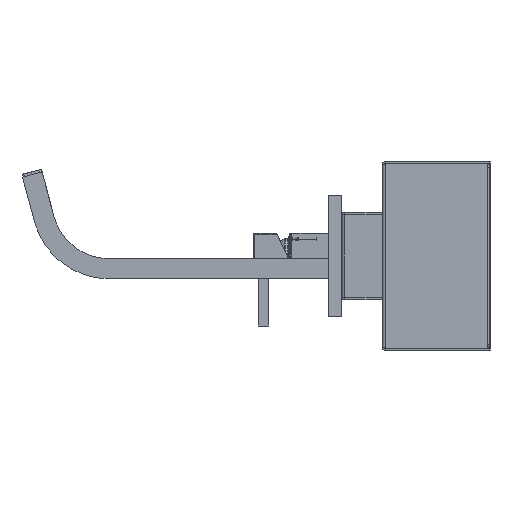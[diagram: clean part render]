
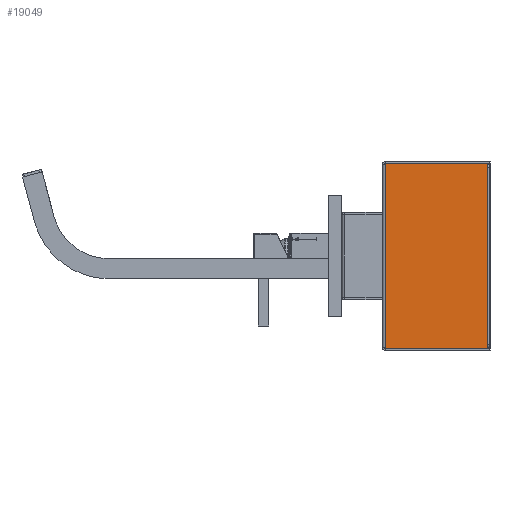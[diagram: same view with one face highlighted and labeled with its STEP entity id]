
A CAD part, left-side view. The second image highlights one B-rep face of the part: STEP entity #19049.
In plain terms, the highlighted planar face has unit normal (-1, 0, 0) as drawn and (1, 0, 0) by its records, which use the part's own axes.
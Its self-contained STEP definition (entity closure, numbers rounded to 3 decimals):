
#789 = CARTESIAN_POINT ( 'NONE',  ( 105., 0., 0.5 ) ) ;
#1490 = VERTEX_POINT ( 'NONE', #28006 ) ;
#1981 = DIRECTION ( 'NONE',  ( 0., -1., 0. ) ) ;
#5073 = CARTESIAN_POINT ( 'NONE',  ( 105., -68.4, 76.5 ) ) ;
#5827 = LINE ( 'NONE', #70483, #81600 ) ;
#6083 = VERTEX_POINT ( 'NONE', #56116 ) ;
#7488 = ORIENTED_EDGE ( 'NONE', *, *, #16123, .F. ) ;
#10272 = CARTESIAN_POINT ( 'NONE',  ( 105., -68., 76.5 ) ) ;
#10430 = CARTESIAN_POINT ( 'NONE',  ( 105., -68.4, 0.5 ) ) ;
#10835 = LINE ( 'NONE', #10430, #79358 ) ;
#12094 = ORIENTED_EDGE ( 'NONE', *, *, #76097, .T. ) ;
#14092 = DIRECTION ( 'NONE',  ( 0., 1., 0. ) ) ;
#16123 = EDGE_CURVE ( 'NONE', #41240, #1490, #18373, .T. ) ;
#16580 = PLANE ( 'NONE',  #66547 ) ;
#16643 = CARTESIAN_POINT ( 'NONE',  ( 105., -68., 0.5 ) ) ;
#17229 = DIRECTION ( 'NONE',  ( 0., 0., 1. ) ) ;
#18373 = LINE ( 'NONE', #10272, #26818 ) ;
#18955 = ORIENTED_EDGE ( 'NONE', *, *, #54727, .T. ) ;
#18973 = LINE ( 'NONE', #48614, #32680 ) ;
#19049 = ADVANCED_FACE ( 'NONE', ( #33498 ), #16580, .T. ) ;
#22254 = EDGE_CURVE ( 'NONE', #65836, #41240, #65813, .T. ) ;
#26371 = ORIENTED_EDGE ( 'NONE', *, *, #39994, .T. ) ;
#26818 = VECTOR ( 'NONE', #79202, 1000. ) ;
#28006 = CARTESIAN_POINT ( 'NONE',  ( 105., 68., 76.5 ) ) ;
#28666 = EDGE_CURVE ( 'NONE', #45921, #65836, #10835, .T. ) ;
#29931 = VECTOR ( 'NONE', #64628, 1000. ) ;
#31879 = DIRECTION ( 'NONE',  ( 0., 0., -1. ) ) ;
#32460 = DIRECTION ( 'NONE',  ( 1., 0., 0. ) ) ;
#32680 = VECTOR ( 'NONE', #1981, 1000. ) ;
#33498 = FACE_OUTER_BOUND ( 'NONE', #51180, .T. ) ;
#34006 = DIRECTION ( 'NONE',  ( 0., 1., 0. ) ) ;
#35020 = EDGE_CURVE ( 'NONE', #76932, #45921, #71620, .T. ) ;
#37871 = VECTOR ( 'NONE', #69980, 1000. ) ;
#39994 = EDGE_CURVE ( 'NONE', #76932, #48828, #44631, .T. ) ;
#41240 = VERTEX_POINT ( 'NONE', #75803 ) ;
#44631 = LINE ( 'NONE', #789, #63634 ) ;
#45921 = VERTEX_POINT ( 'NONE', #47721 ) ;
#46163 = VECTOR ( 'NONE', #34006, 1000. ) ;
#47721 = CARTESIAN_POINT ( 'NONE',  ( 105., -68.4, 0.5 ) ) ;
#48614 = CARTESIAN_POINT ( 'NONE',  ( 105., 68.4, 76.5 ) ) ;
#48828 = VERTEX_POINT ( 'NONE', #86330 ) ;
#51053 = CARTESIAN_POINT ( 'NONE',  ( 105., 0., 0. ) ) ;
#51180 = EDGE_LOOP ( 'NONE', ( #26371, #18955, #63316, #12094, #7488, #71961, #52736, #77227 ) ) ;
#51332 = DIRECTION ( 'NONE',  ( 0., 0., 1. ) ) ;
#52736 = ORIENTED_EDGE ( 'NONE', *, *, #28666, .F. ) ;
#54727 = EDGE_CURVE ( 'NONE', #48828, #58656, #78733, .T. ) ;
#56116 = CARTESIAN_POINT ( 'NONE',  ( 105., 68.4, 76.5 ) ) ;
#56457 = CARTESIAN_POINT ( 'NONE',  ( 105., -68., 0.5 ) ) ;
#56515 = EDGE_CURVE ( 'NONE', #58656, #6083, #5827, .T. ) ;
#58656 = VERTEX_POINT ( 'NONE', #65478 ) ;
#63316 = ORIENTED_EDGE ( 'NONE', *, *, #56515, .T. ) ;
#63634 = VECTOR ( 'NONE', #14092, 1000. ) ;
#64628 = DIRECTION ( 'NONE',  ( 0., 1., 0. ) ) ;
#65478 = CARTESIAN_POINT ( 'NONE',  ( 105., 68.4, 0.5 ) ) ;
#65813 = LINE ( 'NONE', #5073, #29931 ) ;
#65836 = VERTEX_POINT ( 'NONE', #66657 ) ;
#66547 = AXIS2_PLACEMENT_3D ( 'NONE', #51053, #32460, #31879 ) ;
#66657 = CARTESIAN_POINT ( 'NONE',  ( 105., -68.4, 76.5 ) ) ;
#69980 = DIRECTION ( 'NONE',  ( 0., -1., 0. ) ) ;
#70483 = CARTESIAN_POINT ( 'NONE',  ( 105., 68.4, 0.5 ) ) ;
#71620 = LINE ( 'NONE', #56457, #37871 ) ;
#71961 = ORIENTED_EDGE ( 'NONE', *, *, #22254, .F. ) ;
#75803 = CARTESIAN_POINT ( 'NONE',  ( 105., -68., 76.5 ) ) ;
#76097 = EDGE_CURVE ( 'NONE', #6083, #1490, #18973, .T. ) ;
#76932 = VERTEX_POINT ( 'NONE', #16643 ) ;
#77227 = ORIENTED_EDGE ( 'NONE', *, *, #35020, .F. ) ;
#78733 = LINE ( 'NONE', #81387, #46163 ) ;
#79202 = DIRECTION ( 'NONE',  ( 0., 1., 0. ) ) ;
#79358 = VECTOR ( 'NONE', #17229, 1000. ) ;
#81387 = CARTESIAN_POINT ( 'NONE',  ( 105., 68., 0.5 ) ) ;
#81600 = VECTOR ( 'NONE', #51332, 1000. ) ;
#86330 = CARTESIAN_POINT ( 'NONE',  ( 105., 68., 0.5 ) ) ;
